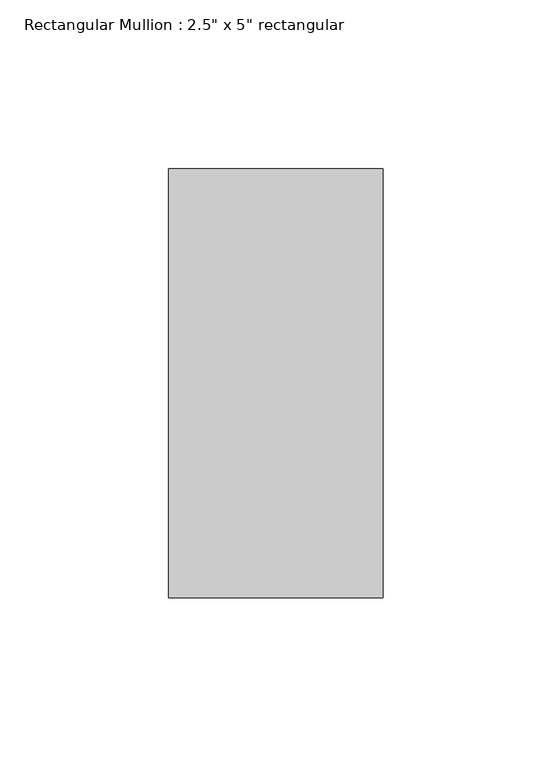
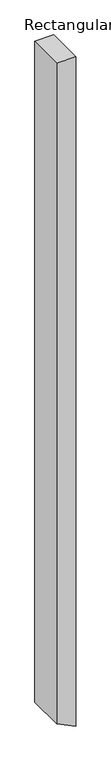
"""IFC4 building model written with IfcOpenShell, lengths in millimetres: member geometry."""

import ifcopenshell
import ifcopenshell.guid

model = None  # the IFC model being written
_history = None  # IfcOwnerHistory: only IFC2X3 demands one
_inside = {}  # id of a spatial element -> (the spatial element, [elements in it])
_under = {}  # id of a project, library or spatial element -> (it, [spatial elements below it])
_declared = {}  # id of a project -> (the project, [libraries it declares])
_typed = {}  # id of a type object -> (the type object, [elements of that type])
_made_of = {}  # id of a material, layer set ... -> (it, [elements and type objects made of it])


def new_model(schema):
    """Start an empty IFC model of exactly this schema.

    Asked for "IFC4X3", IfcOpenShell would pick the latest addendum, in which some entities
    have other attributes; the version numbers below select the first issue.
    IFC2X3 requires an IfcOwnerHistory on every rooted entity: one is made here for all.
    """
    global model, _history
    if schema == "IFC4X3":
        model = ifcopenshell.file(schema_version=(4, 3, 0, 0))
    else:
        model = ifcopenshell.file(schema=schema)
    _inside.clear()
    _under.clear()
    _declared.clear()
    _typed.clear()
    _made_of.clear()
    _history = None
    if model.schema == "IFC2X3":
        org = make("IfcOrganization", Name="unknown")
        user = make(
            "IfcPersonAndOrganization",
            ThePerson=make("IfcPerson", FamilyName="unknown"),
            TheOrganization=org,
        )
        app = make(
            "IfcApplication",
            ApplicationDeveloper=org,
            Version="unknown",
            ApplicationFullName="unknown",
            ApplicationIdentifier="unknown",
        )
        _history = make(
            "IfcOwnerHistory",
            OwningUser=user,
            OwningApplication=app,
            ChangeAction="ADDED",
            CreationDate=0,
        )
    return model


def make(cls, **values):
    """One entity of the class cls with the attributes given. An attribute that is None is left unset."""
    return model.create_entity(
        cls, **{name: value for name, value in values.items() if value is not None}
    )


def rooted(cls, **values):
    """An entity with a GlobalId (a new one), such as an element, a storey or a relation."""
    return make(cls, GlobalId=ifcopenshell.guid.new(), OwnerHistory=_history, **values)


def si_unit(unit_type, name, prefix=None):
    """IfcSIUnit, for example si_unit("LENGTHUNIT", "METRE", prefix="MILLI")."""
    return make("IfcSIUnit", UnitType=unit_type, Prefix=prefix, Name=name)


def assignment(units):
    """IfcUnitAssignment: the units of a project."""
    return None if units is None else make("IfcUnitAssignment", Units=units)


def point(xyz):
    """IfcCartesianPoint."""
    return None if xyz is None else make("IfcCartesianPoint", Coordinates=xyz)


def direction(xyz):
    """IfcDirection."""
    return None if xyz is None else make("IfcDirection", DirectionRatios=xyz)


def frame(location, z_axis=None, x_axis=None):
    """IfcAxis2Placement3D, a coordinate frame: its origin and axes. An axis left out is left unset."""
    return make(
        "IfcAxis2Placement3D",
        Location=point(location),
        Axis=direction(z_axis),
        RefDirection=direction(x_axis),
    )


def origin():
    """The frame at (0, 0, 0) with its axes left unset."""
    return frame((0.0, 0.0, 0.0))


def place(relative_to, where):
    """IfcLocalPlacement: puts the frame where relative to a parent placement (None: the world)."""
    return make(
        "IfcLocalPlacement", PlacementRelTo=relative_to, RelativePlacement=where
    )


def context(
    kind, dimensions, precision=None, world=None, true_north=None, identifier=None
):
    """IfcGeometricRepresentationContext, for example the 3D "Model" context."""
    return make(
        "IfcGeometricRepresentationContext",
        ContextIdentifier=identifier,
        ContextType=kind,
        CoordinateSpaceDimension=dimensions,
        Precision=precision,
        WorldCoordinateSystem=world,
        TrueNorth=true_north,
    )


def project(units=None, contexts=None):
    """IfcProject with its units and contexts."""
    return rooted(
        "IfcProject",
        Name="project",
        RepresentationContexts=contexts,
        UnitsInContext=assignment(units),
    )


def spatial(cls, under=None, at=None, **own):
    """A site, building, storey or space (cls), placed at a placement, below another one or the project."""
    s = rooted(cls, ObjectPlacement=at, **own)
    if under is not None:
        _under.setdefault(under.id(), (under, []))[1].append(s)
    return s


def polyline(points):
    """IfcPolyline through the points."""
    return make("IfcPolyline", Points=[point(p) for p in points])


def outline(outer, holes=None, kind="AREA"):
    """IfcArbitraryClosedProfileDef: a profile drawn as a closed curve; with holes, ...WithVoids."""
    if holes is None:
        return make("IfcArbitraryClosedProfileDef", ProfileType=kind, OuterCurve=outer)
    return make(
        "IfcArbitraryProfileDefWithVoids",
        ProfileType=kind,
        OuterCurve=outer,
        InnerCurves=holes,
    )


def extrude(swept, where, along, depth):
    """IfcExtrudedAreaSolid: the profile swept, set in the frame where, extruded along a direction by depth."""
    return make(
        "IfcExtrudedAreaSolid",
        SweptArea=swept,
        Position=where,
        ExtrudedDirection=direction(along),
        Depth=depth,
    )


def shape(context_of_items, identifier, shape_type, items):
    """IfcShapeRepresentation: the items that make up one representation, for example the "Body"."""
    return make(
        "IfcShapeRepresentation",
        ContextOfItems=context_of_items,
        RepresentationIdentifier=identifier,
        RepresentationType=shape_type,
        Items=items,
    )


def source(mapping_origin, context_of_items, identifier, shape_type, items):
    """IfcRepresentationMap: a shape defined once, which mapped items show again and again."""
    return make(
        "IfcRepresentationMap",
        MappingOrigin=mapping_origin,
        MappedRepresentation=shape(context_of_items, identifier, shape_type, items),
    )


def transform(
    local_origin,
    x_axis=None,
    y_axis=None,
    z_axis=None,
    scale=None,
    scale2=None,
    scale3=None,
    uniform=True,
):
    """IfcCartesianTransformationOperator3D, or its non-uniform kind. x_axis, y_axis, z_axis: its Axis1, 2, 3."""
    if uniform:
        return make(
            "IfcCartesianTransformationOperator3D",
            Axis1=direction(x_axis),
            Axis2=direction(y_axis),
            LocalOrigin=point(local_origin),
            Scale=scale,
            Axis3=direction(z_axis),
        )
    return make(
        "IfcCartesianTransformationOperator3DnonUniform",
        Axis1=direction(x_axis),
        Axis2=direction(y_axis),
        LocalOrigin=point(local_origin),
        Scale=scale,
        Axis3=direction(z_axis),
        Scale2=scale2,
        Scale3=scale3,
    )


def mapped(mapping_source, mapping_target):
    """IfcMappedItem: shows the shape of a source again, moved by a transform."""
    return make(
        "IfcMappedItem", MappingSource=mapping_source, MappingTarget=mapping_target
    )


def made_of(thing, what):
    """Note that an element or type object is made of a material, layer set ...; save() writes the relation."""
    if what is not None:
        _made_of.setdefault(what.id(), (what, []))[1].append(thing)
    return thing


def element(
    cls,
    number,
    at=None,
    inside=None,
    cuts=None,
    type_object=None,
    material=None,
    context=None,
    identifier="Body",
    shape_type=None,
    held_by="IfcProductDefinitionShape",
    body=None,
    shapes=None,
    **own,
):
    """One element of the class cls, such as IfcWall. Its Tag is "e" and its number.

    at: its placement. inside: the storey or other place that contains it. cuts: it is an
    opening in that element (IfcRelVoidsElement). A single representation is given by context,
    identifier, shape_type and body (its items); several are given by shapes. held_by: the class
    of the entity that holds the representations. save() writes the other relations.
    """
    e = rooted(cls, Tag="e%d" % number, ObjectPlacement=at, **own)
    if body is not None:
        shapes = [shape(context, identifier, shape_type, body)]
    if shapes is not None:
        e.Representation = make(held_by, Representations=shapes)
    if inside is not None:
        _inside.setdefault(inside.id(), (inside, []))[1].append(e)
    if cuts is not None:
        rooted(
            "IfcRelVoidsElement", RelatingBuildingElement=cuts, RelatedOpeningElement=e
        )
    if type_object is not None:
        _typed.setdefault(type_object.id(), (type_object, []))[1].append(e)
    return made_of(e, material)


def aggregate(whole, parts):
    """IfcRelAggregates: a whole, such as a stair, and the parts it consists of."""
    return rooted("IfcRelAggregates", RelatingObject=whole, RelatedObjects=parts)


def save(model, path):
    """Write the relations noted so far, then the file.

    IfcRelAggregates (storeys below a building ...), IfcRelContainedInSpatialStructure (elements
    in a storey), IfcRelDefinesByType, IfcRelAssociatesMaterial and IfcRelDeclares: one each for
    every whole, place, type object, material and project.
    """
    for whole, parts in _under.values():
        aggregate(whole, parts)
    for where, things in _inside.values():
        rooted(
            "IfcRelContainedInSpatialStructure",
            RelatedElements=things,
            RelatingStructure=where,
        )
    for kind, things in _typed.values():
        rooted("IfcRelDefinesByType", RelatedObjects=things, RelatingType=kind)
    for what, things in _made_of.values():
        rooted("IfcRelAssociatesMaterial", RelatedObjects=things, RelatingMaterial=what)
    for by, libraries in _declared.values():
        rooted("IfcRelDeclares", RelatingContext=by, RelatedDefinitions=libraries)
    model.write(path)


def member_c9c0cf30(model_context):
    return source(origin(), model_context, "Body", "SweptSolid", [
        extrude(outline(polyline([(0.0, 0.0), (-1.1067122, -63.5), (-2342.4312179, -63.5), (-2373.6856988, 0.0), (0.0, 0.0)])), frame((0.0, -63.5, 0.0), z_axis=(0.0, 1.0, 0.0), x_axis=(0.0, 0.0, 1.0)), (0.0, 0.0, 1.0), 127.0),
    ])


if __name__ == "__main__":
    model = new_model("IFC4")
    model_context = context("Model", 3, world=origin())
    ifc_project = project(units=[si_unit("LENGTHUNIT", "METRE", prefix="MILLI")], contexts=[model_context])
    site = spatial("IfcSite", under=ifc_project)
    building = spatial("IfcBuilding", under=site)
    placement = place(None, origin())
    member_shape = member_c9c0cf30(model_context)
    element("IfcMember", 1, ObjectType="Rectangular Mullion : 2.5\" x 5\" rectangular", at=placement, inside=building, context=model_context, shape_type="MappedRepresentation", body=[
        mapped(member_shape, transform((0.0, 0.0, 0.0), x_axis=(1.0, 0.0, 0.0), y_axis=(0.0, 1.0, 0.0), z_axis=(0.0, 0.0, 1.0))),
    ])
    save(model, "model.ifc")
